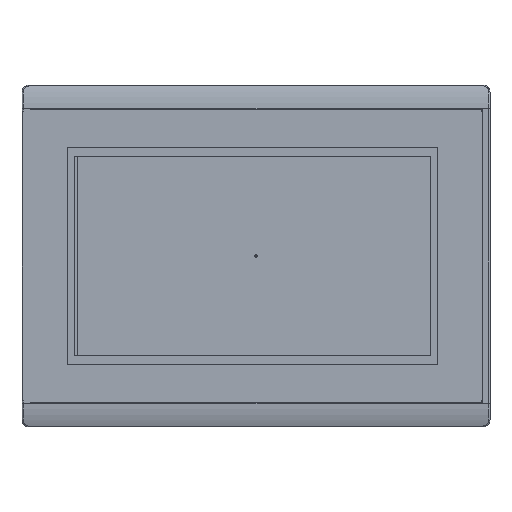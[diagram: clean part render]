
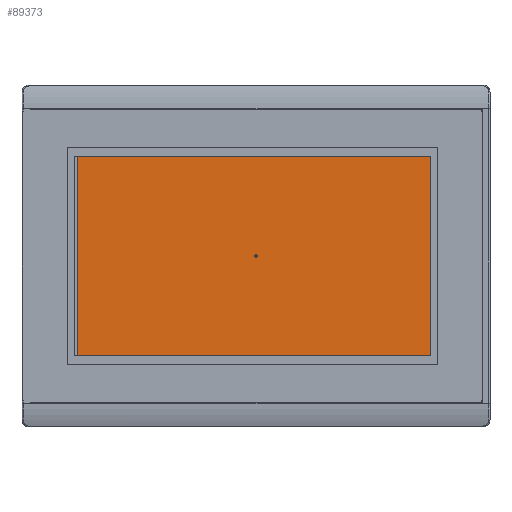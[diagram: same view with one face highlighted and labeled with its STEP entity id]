
A CAD part, top view. The second image highlights one B-rep face of the part: STEP entity #89373.
In plain terms, the highlighted planar face has unit normal (0, 0, 1).
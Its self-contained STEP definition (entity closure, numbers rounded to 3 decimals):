
#3772=CARTESIAN_POINT('',(64.5,-55.0,22.7));
#3773=VERTEX_POINT('',#3772);
#3774=CARTESIAN_POINT('',(64.0,-55.0,22.7));
#3775=DIRECTION('',(0.0,0.0,-1.0));
#3776=DIRECTION('',(-1.0,0.0,0.0));
#3777=AXIS2_PLACEMENT_3D('',#3774,#3775,#3776);
#3778=CIRCLE('',#3777,0.5);
#3779=EDGE_CURVE('',#3773,#3773,#3778,.T.);
#7708=CARTESIAN_POINT('',(140.2,-97.7,22.7));
#7709=VERTEX_POINT('',#7708);
#7716=CARTESIAN_POINT('',(140.2,-12.3,22.7));
#7717=VERTEX_POINT('',#7716);
#7740=CARTESIAN_POINT('',(-12.2,-12.3,22.7));
#7741=VERTEX_POINT('',#7740);
#7748=CARTESIAN_POINT('',(-12.2,-97.7,22.7));
#7749=VERTEX_POINT('',#7748);
#8344=CARTESIAN_POINT('',(140.2,-97.7,22.7));
#8345=DIRECTION('',(0.0,1.0,0.0));
#8346=VECTOR('',#8345,85.4);
#8347=LINE('',#8344,#8346);
#8348=EDGE_CURVE('',#7709,#7717,#8347,.T.);
#8364=CARTESIAN_POINT('',(-12.2,-12.3,22.7));
#8365=DIRECTION('',(0.0,-1.0,0.0));
#8366=VECTOR('',#8365,85.4);
#8367=LINE('',#8364,#8366);
#8368=EDGE_CURVE('',#7741,#7749,#8367,.T.);
#8678=CARTESIAN_POINT('',(-12.2,-97.7,22.7));
#8679=DIRECTION('',(1.0,0.0,0.0));
#8680=VECTOR('',#8679,152.4);
#8681=LINE('',#8678,#8680);
#8682=EDGE_CURVE('',#7749,#7709,#8681,.T.);
#89354=CARTESIAN_POINT('',(-19.82,-105.292,22.7));
#89355=DIRECTION('',(0.0,0.0,1.0));
#89356=DIRECTION('',(1.0,0.0,0.0));
#89357=AXIS2_PLACEMENT_3D('',#89354,#89355,#89356);
#89358=PLANE('',#89357);
#89359=ORIENTED_EDGE('',*,*,#8682,.T.);
#89360=ORIENTED_EDGE('',*,*,#8348,.T.);
#89361=CARTESIAN_POINT('',(140.2,-12.3,22.7));
#89362=DIRECTION('',(-1.0,0.0,0.0));
#89363=VECTOR('',#89362,152.4);
#89364=LINE('',#89361,#89363);
#89365=EDGE_CURVE('',#7717,#7741,#89364,.T.);
#89366=ORIENTED_EDGE('',*,*,#89365,.T.);
#89367=ORIENTED_EDGE('',*,*,#8368,.T.);
#89368=EDGE_LOOP('',(#89359,#89360,#89366,#89367));
#89369=FACE_OUTER_BOUND('',#89368,.T.);
#89370=ORIENTED_EDGE('',*,*,#3779,.T.);
#89371=EDGE_LOOP('',(#89370));
#89372=FACE_BOUND('',#89371,.T.);
#89373=ADVANCED_FACE('',(#89369,#89372),#89358,.T.);
